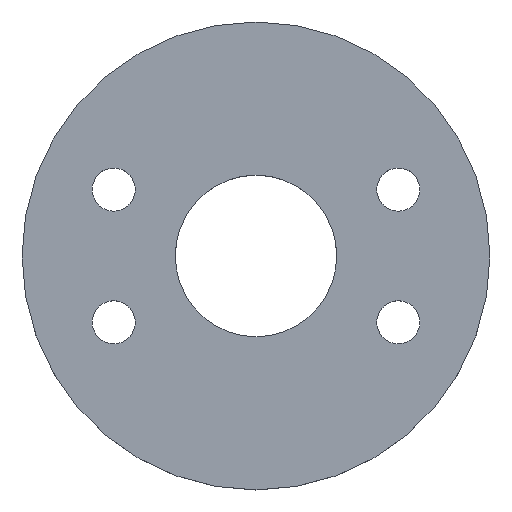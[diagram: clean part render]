
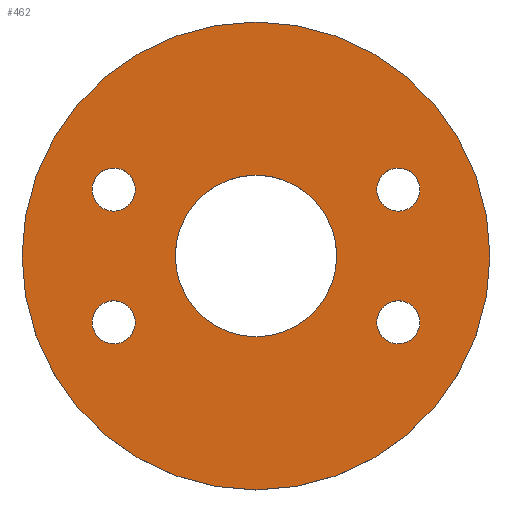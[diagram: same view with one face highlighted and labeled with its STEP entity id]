
A CAD part, top view. The second image highlights one B-rep face of the part: STEP entity #462.
In plain terms, the highlighted planar face has unit normal (0, 0, 1).
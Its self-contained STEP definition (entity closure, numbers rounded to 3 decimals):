
#3 = PLANE ( 'NONE',  #468 ) ;
#6 = FACE_OUTER_BOUND ( 'NONE', #325, .T. ) ;
#11 = CARTESIAN_POINT ( 'NONE',  ( 0., 0., 35. ) ) ;
#14 = EDGE_LOOP ( 'NONE', ( #223, #349 ) ) ;
#15 = AXIS2_PLACEMENT_3D ( 'NONE', #161, #198, #266 ) ;
#44 = CARTESIAN_POINT ( 'NONE',  ( -150., 0., 35. ) ) ;
#56 = VERTEX_POINT ( 'NONE', #44 ) ;
#63 = DIRECTION ( 'NONE',  ( 0., 0., 1. ) ) ;
#68 = AXIS2_PLACEMENT_3D ( 'NONE', #410, #508, #520 ) ;
#71 = CARTESIAN_POINT ( 'NONE',  ( 224.189, -123.193, 35. ) ) ;
#75 = AXIS2_PLACEMENT_3D ( 'NONE', #523, #302, #438 ) ;
#80 = VERTEX_POINT ( 'NONE', #121 ) ;
#82 = VERTEX_POINT ( 'NONE', #104 ) ;
#85 = DIRECTION ( 'NONE',  ( 1., 0., 0. ) ) ;
#92 = VERTEX_POINT ( 'NONE', #71 ) ;
#104 = CARTESIAN_POINT ( 'NONE',  ( -224.189, -123.193, 35. ) ) ;
#105 = ORIENTED_EDGE ( 'NONE', *, *, #396, .F. ) ;
#111 = CIRCLE ( 'NONE', #68, 40. ) ;
#112 = CARTESIAN_POINT ( 'NONE',  ( 264.189, -123.193, 35. ) ) ;
#121 = CARTESIAN_POINT ( 'NONE',  ( -304.189, 123.193, 35. ) ) ;
#125 = AXIS2_PLACEMENT_3D ( 'NONE', #204, #205, #208 ) ;
#131 = ORIENTED_EDGE ( 'NONE', *, *, #432, .F. ) ;
#149 = EDGE_CURVE ( 'NONE', #82, #517, #111, .T. ) ;
#158 = DIRECTION ( 'NONE',  ( 0., 0., 1. ) ) ;
#159 = CIRCLE ( 'NONE', #215, 40. ) ;
#161 = CARTESIAN_POINT ( 'NONE',  ( -264.189, 123.193, 35. ) ) ;
#167 = CARTESIAN_POINT ( 'NONE',  ( 224.189, 123.193, 35. ) ) ;
#173 = CARTESIAN_POINT ( 'NONE',  ( -304.189, -123.193, 35. ) ) ;
#183 = VERTEX_POINT ( 'NONE', #533 ) ;
#186 = AXIS2_PLACEMENT_3D ( 'NONE', #323, #360, #478 ) ;
#187 = ORIENTED_EDGE ( 'NONE', *, *, #272, .F. ) ;
#194 = CIRCLE ( 'NONE', #544, 150. ) ;
#197 = FACE_BOUND ( 'NONE', #374, .T. ) ;
#198 = DIRECTION ( 'NONE',  ( 0., 0., 1. ) ) ;
#204 = CARTESIAN_POINT ( 'NONE',  ( 0., 0., 35. ) ) ;
#205 = DIRECTION ( 'NONE',  ( 0., 0., 1. ) ) ;
#208 = DIRECTION ( 'NONE',  ( 1., 0., 0. ) ) ;
#215 = AXIS2_PLACEMENT_3D ( 'NONE', #466, #253, #357 ) ;
#223 = ORIENTED_EDGE ( 'NONE', *, *, #498, .F. ) ;
#226 = CARTESIAN_POINT ( 'NONE',  ( -264.189, 123.193, 35. ) ) ;
#238 = EDGE_CURVE ( 'NONE', #453, #394, #329, .T. ) ;
#242 = DIRECTION ( 'NONE',  ( 0., 0., 1. ) ) ;
#245 = DIRECTION ( 'NONE',  ( 1., 0., 0. ) ) ;
#248 = CARTESIAN_POINT ( 'NONE',  ( 434.5, 0., 35. ) ) ;
#249 = DIRECTION ( 'NONE',  ( 1., 0., 0. ) ) ;
#253 = DIRECTION ( 'NONE',  ( 0., 0., 1. ) ) ;
#257 = EDGE_LOOP ( 'NONE', ( #131, #347 ) ) ;
#263 = EDGE_LOOP ( 'NONE', ( #452, #105 ) ) ;
#265 = ORIENTED_EDGE ( 'NONE', *, *, #313, .F. ) ;
#266 = DIRECTION ( 'NONE',  ( -1., 0., 0. ) ) ;
#272 = EDGE_CURVE ( 'NONE', #80, #489, #469, .T. ) ;
#277 = VERTEX_POINT ( 'NONE', #248 ) ;
#280 = EDGE_CURVE ( 'NONE', #92, #183, #513, .T. ) ;
#281 = CARTESIAN_POINT ( 'NONE',  ( 264.189, 123.193, 35. ) ) ;
#283 = DIRECTION ( 'NONE',  ( 0., 0., 1. ) ) ;
#302 = DIRECTION ( 'NONE',  ( 0., 0., 1. ) ) ;
#306 = AXIS2_PLACEMENT_3D ( 'NONE', #281, #283, #245 ) ;
#309 = CIRCLE ( 'NONE', #186, 40. ) ;
#313 = EDGE_CURVE ( 'NONE', #489, #80, #504, .T. ) ;
#315 = AXIS2_PLACEMENT_3D ( 'NONE', #112, #158, #473 ) ;
#317 = CARTESIAN_POINT ( 'NONE',  ( 304.189, 123.193, 35. ) ) ;
#323 = CARTESIAN_POINT ( 'NONE',  ( 264.189, 123.193, 35. ) ) ;
#325 = EDGE_LOOP ( 'NONE', ( #529, #502 ) ) ;
#329 = CIRCLE ( 'NONE', #306, 40. ) ;
#333 = DIRECTION ( 'NONE',  ( 0., 0., 1. ) ) ;
#341 = EDGE_CURVE ( 'NONE', #512, #56, #370, .T. ) ;
#347 = ORIENTED_EDGE ( 'NONE', *, *, #280, .F. ) ;
#349 = ORIENTED_EDGE ( 'NONE', *, *, #341, .F. ) ;
#351 = CARTESIAN_POINT ( 'NONE',  ( 264.189, -123.193, 35. ) ) ;
#353 = CIRCLE ( 'NONE', #75, 434.5 ) ;
#357 = DIRECTION ( 'NONE',  ( 1., 0., 0. ) ) ;
#360 = DIRECTION ( 'NONE',  ( 0., 0., 1. ) ) ;
#364 = CARTESIAN_POINT ( 'NONE',  ( 0., 0., 35. ) ) ;
#370 = CIRCLE ( 'NONE', #125, 150. ) ;
#371 = CARTESIAN_POINT ( 'NONE',  ( 0., 0., 35. ) ) ;
#374 = EDGE_LOOP ( 'NONE', ( #265, #187 ) ) ;
#385 = FACE_BOUND ( 'NONE', #257, .T. ) ;
#392 = CARTESIAN_POINT ( 'NONE',  ( -224.189, 123.193, 35. ) ) ;
#394 = VERTEX_POINT ( 'NONE', #167 ) ;
#396 = EDGE_CURVE ( 'NONE', #517, #82, #159, .T. ) ;
#399 = DIRECTION ( 'NONE',  ( 1., 0., 0. ) ) ;
#402 = EDGE_CURVE ( 'NONE', #394, #453, #309, .T. ) ;
#410 = CARTESIAN_POINT ( 'NONE',  ( -264.189, -123.193, 35. ) ) ;
#414 = VERTEX_POINT ( 'NONE', #471 ) ;
#420 = ORIENTED_EDGE ( 'NONE', *, *, #238, .F. ) ;
#425 = CIRCLE ( 'NONE', #315, 40. ) ;
#432 = EDGE_CURVE ( 'NONE', #183, #92, #425, .T. ) ;
#435 = DIRECTION ( 'NONE',  ( 0., 0., 1. ) ) ;
#438 = DIRECTION ( 'NONE',  ( 1., 0., 0. ) ) ;
#439 = DIRECTION ( 'NONE',  ( -1., 0., 0. ) ) ;
#442 = ORIENTED_EDGE ( 'NONE', *, *, #402, .F. ) ;
#446 = DIRECTION ( 'NONE',  ( 0., 0., 1. ) ) ;
#448 = EDGE_LOOP ( 'NONE', ( #420, #442 ) ) ;
#452 = ORIENTED_EDGE ( 'NONE', *, *, #149, .F. ) ;
#453 = VERTEX_POINT ( 'NONE', #317 ) ;
#462 = ADVANCED_FACE ( 'NONE', ( #197, #477, #385, #480, #6, #488 ), #3, .T. ) ;
#466 = CARTESIAN_POINT ( 'NONE',  ( -264.189, -123.193, 35. ) ) ;
#468 = AXIS2_PLACEMENT_3D ( 'NONE', #11, #435, #249 ) ;
#469 = CIRCLE ( 'NONE', #503, 40. ) ;
#471 = CARTESIAN_POINT ( 'NONE',  ( -434.5, 0., 35. ) ) ;
#473 = DIRECTION ( 'NONE',  ( -1., 0., 0. ) ) ;
#477 = FACE_BOUND ( 'NONE', #263, .T. ) ;
#478 = DIRECTION ( 'NONE',  ( 1., 0., 0. ) ) ;
#480 = FACE_BOUND ( 'NONE', #448, .T. ) ;
#488 = FACE_BOUND ( 'NONE', #14, .T. ) ;
#489 = VERTEX_POINT ( 'NONE', #392 ) ;
#491 = CARTESIAN_POINT ( 'NONE',  ( 150., 0., 35. ) ) ;
#492 = EDGE_CURVE ( 'NONE', #414, #277, #540, .T. ) ;
#498 = EDGE_CURVE ( 'NONE', #56, #512, #194, .T. ) ;
#500 = DIRECTION ( 'NONE',  ( -1., 0., 0. ) ) ;
#502 = ORIENTED_EDGE ( 'NONE', *, *, #507, .T. ) ;
#503 = AXIS2_PLACEMENT_3D ( 'NONE', #226, #242, #439 ) ;
#504 = CIRCLE ( 'NONE', #15, 40. ) ;
#507 = EDGE_CURVE ( 'NONE', #277, #414, #353, .T. ) ;
#508 = DIRECTION ( 'NONE',  ( 0., 0., 1. ) ) ;
#512 = VERTEX_POINT ( 'NONE', #491 ) ;
#513 = CIRCLE ( 'NONE', #530, 40. ) ;
#517 = VERTEX_POINT ( 'NONE', #173 ) ;
#520 = DIRECTION ( 'NONE',  ( 1., 0., 0. ) ) ;
#521 = AXIS2_PLACEMENT_3D ( 'NONE', #371, #446, #399 ) ;
#523 = CARTESIAN_POINT ( 'NONE',  ( 0., 0., 35. ) ) ;
#529 = ORIENTED_EDGE ( 'NONE', *, *, #492, .T. ) ;
#530 = AXIS2_PLACEMENT_3D ( 'NONE', #351, #63, #500 ) ;
#533 = CARTESIAN_POINT ( 'NONE',  ( 304.189, -123.193, 35. ) ) ;
#540 = CIRCLE ( 'NONE', #521, 434.5 ) ;
#544 = AXIS2_PLACEMENT_3D ( 'NONE', #364, #333, #85 ) ;
